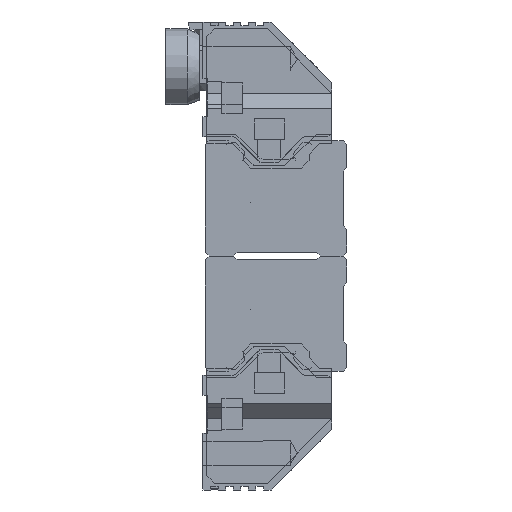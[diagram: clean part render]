
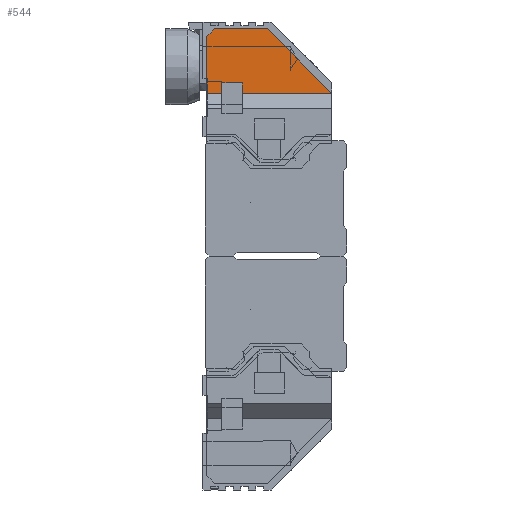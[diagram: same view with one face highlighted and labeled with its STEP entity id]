
A CAD part, left-side view. The second image highlights one B-rep face of the part: STEP entity #544.
In plain terms, the highlighted planar face has unit normal (-1, 0, 0).
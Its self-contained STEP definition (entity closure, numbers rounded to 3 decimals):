
#544 = ADVANCED_FACE( '', ( #2038 ), #2039, .T. );
#2038 = FACE_OUTER_BOUND( '', #4450, .T. );
#2039 = PLANE( '', #4451 );
#4450 = EDGE_LOOP( '', ( #7864, #7865, #7866, #7867, #7868, #7869, #7870, #7871, #7872 ) );
#4451 = AXIS2_PLACEMENT_3D( '', #7873, #7874, #7875 );
#7864 = ORIENTED_EDGE( '', *, *, #12574, .F. );
#7865 = ORIENTED_EDGE( '', *, *, #12588, .T. );
#7866 = ORIENTED_EDGE( '', *, *, #12582, .T. );
#7867 = ORIENTED_EDGE( '', *, *, #12592, .T. );
#7868 = ORIENTED_EDGE( '', *, *, #12593, .F. );
#7869 = ORIENTED_EDGE( '', *, *, #12594, .F. );
#7870 = ORIENTED_EDGE( '', *, *, #12595, .F. );
#7871 = ORIENTED_EDGE( '', *, *, #12596, .F. );
#7872 = ORIENTED_EDGE( '', *, *, #12589, .T. );
#7873 = CARTESIAN_POINT( '', ( -42., 13.6, 36.5 ) );
#7874 = DIRECTION( '', ( -1., 0., 0. ) );
#7875 = DIRECTION( '', ( 0., 0., 1. ) );
#12574 = EDGE_CURVE( '', #14832, #14834, #14835, .T. );
#12582 = EDGE_CURVE( '', #14849, #14847, #14850, .T. );
#12588 = EDGE_CURVE( '', #14832, #14849, #14857, .T. );
#12589 = EDGE_CURVE( '', #14858, #14834, #14859, .T. );
#12592 = EDGE_CURVE( '', #14847, #14863, #14864, .T. );
#12593 = EDGE_CURVE( '', #14865, #14863, #14866, .T. );
#12594 = EDGE_CURVE( '', #14867, #14865, #14868, .T. );
#12595 = EDGE_CURVE( '', #14869, #14867, #14870, .T. );
#12596 = EDGE_CURVE( '', #14858, #14869, #14871, .T. );
#14832 = VERTEX_POINT( '', #18227 );
#14834 = VERTEX_POINT( '', #18230 );
#14835 = LINE( '', #18231, #18232 );
#14847 = VERTEX_POINT( '', #18250 );
#14849 = VERTEX_POINT( '', #18253 );
#14850 = LINE( '', #18254, #18255 );
#14857 = LINE( '', #18267, #18268 );
#14858 = VERTEX_POINT( '', #18269 );
#14859 = LINE( '', #18270, #18271 );
#14863 = VERTEX_POINT( '', #18277 );
#14864 = LINE( '', #18278, #18279 );
#14865 = VERTEX_POINT( '', #18280 );
#14866 = LINE( '', #18281, #18282 );
#14867 = VERTEX_POINT( '', #18283 );
#14868 = LINE( '', #18284, #18285 );
#14869 = VERTEX_POINT( '', #18286 );
#14870 = LINE( '', #18287, #18288 );
#14871 = LINE( '', #18289, #18290 );
#18227 = CARTESIAN_POINT( '', ( -42., 7.15, 15.35 ) );
#18230 = CARTESIAN_POINT( '', ( -42., 7.15, 14. ) );
#18231 = CARTESIAN_POINT( '', ( -42., 7.15, 36.5 ) );
#18232 = VECTOR( '', #22371, 1000. );
#18250 = CARTESIAN_POINT( '', ( -42., 4.45, 14. ) );
#18253 = CARTESIAN_POINT( '', ( -42., 4.45, 15.35 ) );
#18254 = CARTESIAN_POINT( '', ( -42., 4.45, 36.5 ) );
#18255 = VECTOR( '', #22379, 1000. );
#18267 = CARTESIAN_POINT( '', ( -42., 13.6, 15.35 ) );
#18268 = VECTOR( '', #22385, 1000. );
#18269 = CARTESIAN_POINT( '', ( -42., 9.15, 14. ) );
#18270 = CARTESIAN_POINT( '', ( -42., 13.6, 14. ) );
#18271 = VECTOR( '', #22386, 1000. );
#18277 = CARTESIAN_POINT( '', ( -42., -7.35, 14. ) );
#18278 = CARTESIAN_POINT( '', ( -42., 13.6, 14. ) );
#18279 = VECTOR( '', #22389, 1000. );
#18280 = CARTESIAN_POINT( '', ( -42., 1.15, 22.5 ) );
#18281 = CARTESIAN_POINT( '', ( -42., 1.15, 22.5 ) );
#18282 = VECTOR( '', #22390, 1000. );
#18283 = CARTESIAN_POINT( '', ( -42., 8.15, 22.5 ) );
#18284 = CARTESIAN_POINT( '', ( -42., 8.15, 22.5 ) );
#18285 = VECTOR( '', #22391, 1000. );
#18286 = CARTESIAN_POINT( '', ( -42., 9.15, 21.5 ) );
#18287 = CARTESIAN_POINT( '', ( -42., 9.15, 21.5 ) );
#18288 = VECTOR( '', #22392, 1000. );
#18289 = CARTESIAN_POINT( '', ( -42., 9.15, 8.55 ) );
#18290 = VECTOR( '', #22393, 1000. );
#22371 = DIRECTION( '', ( 0., 0., -1. ) );
#22379 = DIRECTION( '', ( 0., 0., -1. ) );
#22385 = DIRECTION( '', ( 0., -1., 0. ) );
#22386 = DIRECTION( '', ( 0., -1., 0. ) );
#22389 = DIRECTION( '', ( 0., -1., 0. ) );
#22390 = DIRECTION( '', ( 0., -0.707, -0.707 ) );
#22391 = DIRECTION( '', ( 0., -1., 0. ) );
#22392 = DIRECTION( '', ( 0., -0.707, 0.707 ) );
#22393 = DIRECTION( '', ( 0., 0., 1. ) );
